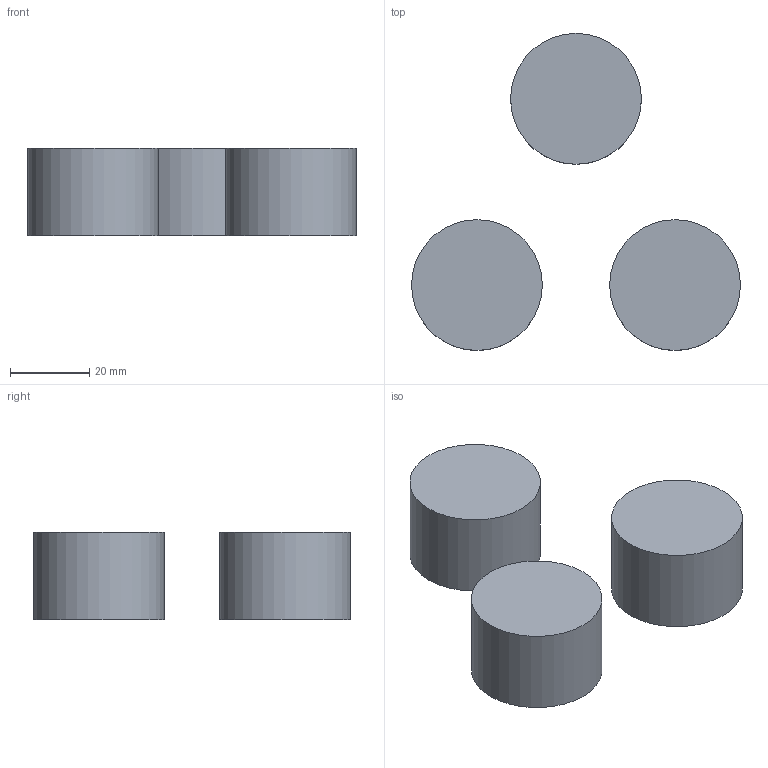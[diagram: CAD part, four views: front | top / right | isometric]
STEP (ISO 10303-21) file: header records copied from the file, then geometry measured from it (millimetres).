
FILE_DESCRIPTION(('Open CASCADE Model'),'2;1');
FILE_NAME('rws','2026-08-12T02:42:45',('Author'),('Open CASCADE'), 'Open CASCADE STEP processor 7.9','build123d','Unknown');
FILE_SCHEMA(('AUTOMOTIVE_DESIGN { 1 0 10303 214 1 1 1 1 }'));
Length unit declared in the file: millimetre
Products named in the file (4): rws; COMPOUND
Assembly tree (3 placements, depth 2):
  rws
    COMPOUND
    COMPOUND
    COMPOUND
Bounding box: 83 x 80 x 22 mm (x, y, z)
Volume: 56449.7 mm3; surface area: 11974.2 mm2
Topology: 3 solids, 3 shells, 9 faces, 9 edges, 6 vertices
Faces by surface type: plane 6, cylinder 3
Full cylindrical faces by diameter (mm): 33 x3
Entity records: 346 total; most frequent: DIRECTION 59, CARTESIAN_POINT 46, AXIS2_PLACEMENT_3D 19, ORIENTED_EDGE 18, PCURVE 18, DEFINITIONAL_REPRESENTATION 18, LINE 15, VECTOR 15
